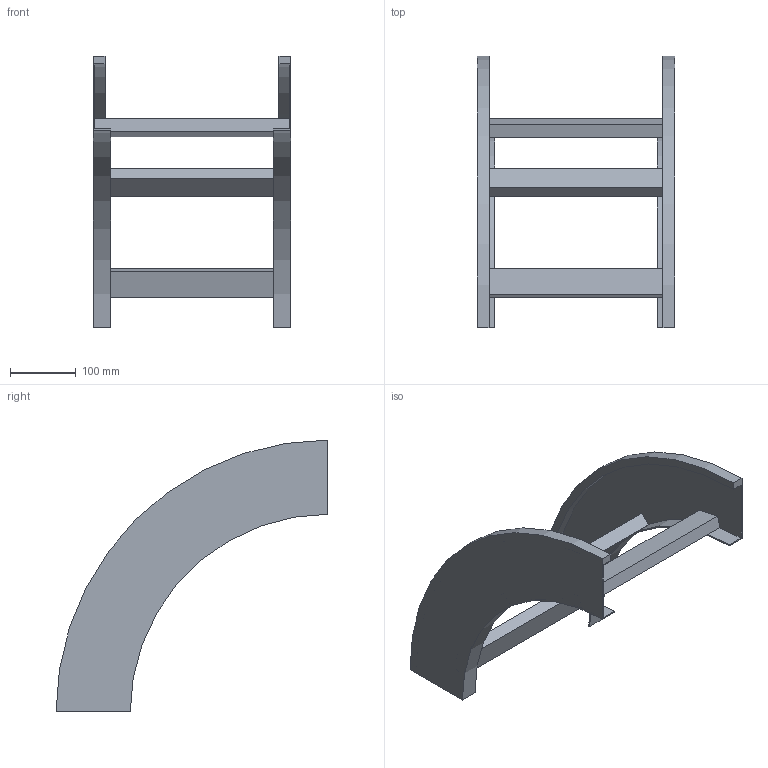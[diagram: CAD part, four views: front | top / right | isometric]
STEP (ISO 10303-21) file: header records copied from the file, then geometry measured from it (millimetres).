
FILE_DESCRIPTION (( 'STEP AP214' ), '1' );
FILE_NAME ('B2_33B3J300.step', '2025-02-21T15:04:07', ( '' ), ( '' ), 'SwSTEP 2.0', 'SolidWorks 2023', '' );
FILE_SCHEMA (( 'AUTOMOTIVE_DESIGN' ));
Length unit declared in the file: millimetre
Products named in the file (3): TRAVERSINO_300; B2_33B3J300; B2_LONGH.DISCESA_90°_H112.5_R300
Assembly tree (5 placements, depth 2):
  B2_33B3J300
    B2_LONGH.DISCESA_90°_H112.5_R300  x2
    TRAVERSINO_300  x3
Bounding box: 300 x 412.5 x 412.5 mm (x, y, z)
Volume: 1263574.3 mm3; surface area: 458617.9 mm2
Topology: 5 solids, 5 shells, 38 faces, 84 edges, 56 vertices
Faces by surface type: plane 30, cylinder 8
Entity records: 560 total; most frequent: DIRECTION 92, CARTESIAN_POINT 84, ORIENTED_EDGE 72, EDGE_CURVE 36, AXIS2_PLACEMENT_3D 32, VECTOR 28, LINE 28, VERTEX_POINT 24
